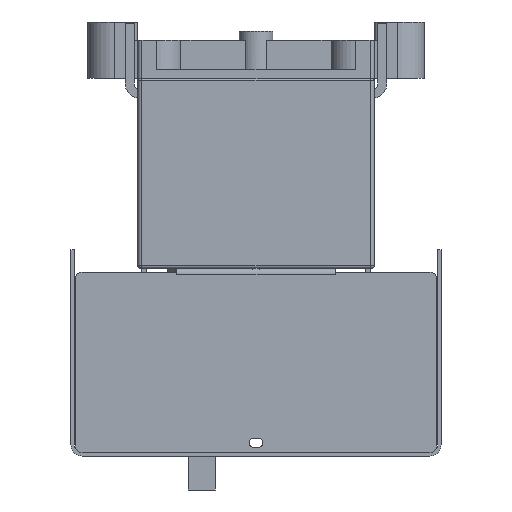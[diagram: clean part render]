
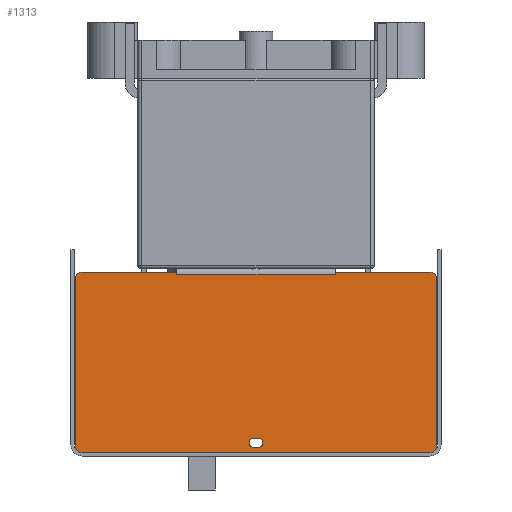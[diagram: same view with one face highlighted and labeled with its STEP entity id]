
A CAD part, left-side view. The second image highlights one B-rep face of the part: STEP entity #1313.
In plain terms, the highlighted planar face has unit normal (-1, 0, 0).
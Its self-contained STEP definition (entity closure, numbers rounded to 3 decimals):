
#170=FACE_BOUND('',#4101,.T.);
#171=FACE_BOUND('',#4102,.T.);
#1313=ADVANCED_FACE('',(#170,#171),#2145,.T.);
#2145=PLANE('',#21036);
#4101=EDGE_LOOP('',(#8823,#8824,#8825,#8826,#8827,#8828,#8829,#8830,#8831,
#8832,#8833,#8834,#8835,#8836));
#4102=EDGE_LOOP('',(#8837,#8838,#8839,#8840));
#5039=CIRCLE('',#21014,2.1);
#5041=CIRCLE('',#21018,2.1);
#5043=CIRCLE('',#21022,3.);
#5045=CIRCLE('',#21025,3.);
#5047=CIRCLE('',#21029,3.);
#5049=CIRCLE('',#21033,3.);
#8823=ORIENTED_EDGE('',*,*,#14723,.F.);
#8824=ORIENTED_EDGE('',*,*,#14724,.T.);
#8825=ORIENTED_EDGE('',*,*,#14725,.T.);
#8826=ORIENTED_EDGE('',*,*,#14726,.T.);
#8827=ORIENTED_EDGE('',*,*,#14727,.F.);
#8828=ORIENTED_EDGE('',*,*,#14715,.T.);
#8829=ORIENTED_EDGE('',*,*,#14720,.T.);
#8830=ORIENTED_EDGE('',*,*,#14703,.T.);
#8831=ORIENTED_EDGE('',*,*,#14706,.T.);
#8832=ORIENTED_EDGE('',*,*,#14681,.T.);
#8833=ORIENTED_EDGE('',*,*,#14709,.T.);
#8834=ORIENTED_EDGE('',*,*,#14712,.T.);
#8835=ORIENTED_EDGE('',*,*,#14714,.T.);
#8836=ORIENTED_EDGE('',*,*,#14689,.T.);
#8837=ORIENTED_EDGE('',*,*,#14693,.T.);
#8838=ORIENTED_EDGE('',*,*,#14697,.T.);
#8839=ORIENTED_EDGE('',*,*,#14700,.T.);
#8840=ORIENTED_EDGE('',*,*,#14722,.T.);
#11890=VERTEX_POINT('',#29773);
#11935=VERTEX_POINT('',#29870);
#12219=VERTEX_POINT('',#30961);
#12220=VERTEX_POINT('',#30963);
#12223=VERTEX_POINT('',#30970);
#12224=VERTEX_POINT('',#30972);
#12226=VERTEX_POINT('',#30978);
#12228=VERTEX_POINT('',#30984);
#12231=VERTEX_POINT('',#30991);
#12232=VERTEX_POINT('',#30993);
#12234=VERTEX_POINT('',#31002);
#12236=VERTEX_POINT('',#31008);
#12237=VERTEX_POINT('',#31015);
#12238=VERTEX_POINT('',#31016);
#12241=VERTEX_POINT('',#31030);
#12242=VERTEX_POINT('',#31032);
#12243=VERTEX_POINT('',#31034);
#12244=VERTEX_POINT('',#31036);
#14681=EDGE_CURVE('',#11890,#11935,#17113,.T.);
#14689=EDGE_CURVE('',#12220,#12219,#17120,.T.);
#14693=EDGE_CURVE('',#12224,#12223,#5039,.T.);
#14697=EDGE_CURVE('',#12223,#12226,#17126,.T.);
#14700=EDGE_CURVE('',#12226,#12228,#5041,.T.);
#14703=EDGE_CURVE('',#12232,#12231,#17130,.T.);
#14706=EDGE_CURVE('',#12231,#11890,#5043,.T.);
#14709=EDGE_CURVE('',#11935,#12234,#5045,.T.);
#14712=EDGE_CURVE('',#12234,#12236,#17135,.T.);
#14714=EDGE_CURVE('',#12236,#12220,#5047,.T.);
#14715=EDGE_CURVE('',#12237,#12238,#17136,.T.);
#14720=EDGE_CURVE('',#12238,#12232,#5049,.T.);
#14722=EDGE_CURVE('',#12228,#12224,#17141,.T.);
#14723=EDGE_CURVE('',#12241,#12219,#17142,.T.);
#14724=EDGE_CURVE('',#12241,#12242,#17143,.T.);
#14725=EDGE_CURVE('',#12242,#12243,#17144,.T.);
#14726=EDGE_CURVE('',#12243,#12244,#17145,.T.);
#14727=EDGE_CURVE('',#12237,#12244,#17146,.T.);
#17113=LINE('',#30944,#19201);
#17120=LINE('',#30962,#19208);
#17126=LINE('',#30979,#19214);
#17130=LINE('',#30992,#19218);
#17135=LINE('',#31009,#19223);
#17136=LINE('',#31014,#19224);
#17141=LINE('',#31027,#19229);
#17142=LINE('',#31029,#19230);
#17143=LINE('',#31031,#19231);
#17144=LINE('',#31033,#19232);
#17145=LINE('',#31035,#19233);
#17146=LINE('',#31037,#19234);
#19201=VECTOR('',#25137,1.);
#19208=VECTOR('',#25150,1.);
#19214=VECTOR('',#25164,1.);
#19218=VECTOR('',#25176,1.);
#19223=VECTOR('',#25195,1.);
#19224=VECTOR('',#25204,1.);
#19229=VECTOR('',#25217,1.);
#19230=VECTOR('',#25220,1.);
#19231=VECTOR('',#25221,1.);
#19232=VECTOR('',#25222,1.);
#19233=VECTOR('',#25223,1.);
#19234=VECTOR('',#25224,1.);
#21014=AXIS2_PLACEMENT_3D('',#30971,#25157,#25158);
#21018=AXIS2_PLACEMENT_3D('',#30985,#25170,#25171);
#21022=AXIS2_PLACEMENT_3D('',#30997,#25182,#25183);
#21025=AXIS2_PLACEMENT_3D('',#31003,#25189,#25190);
#21029=AXIS2_PLACEMENT_3D('',#31012,#25200,#25201);
#21033=AXIS2_PLACEMENT_3D('',#31024,#25212,#25213);
#21036=AXIS2_PLACEMENT_3D('',#31038,#25225,#25226);
#25137=DIRECTION('',(0.,-1.,0.));
#25150=DIRECTION('',(0.,1.,0.));
#25157=DIRECTION('',(1.,0.,0.));
#25158=DIRECTION('',(0.,1.,0.));
#25164=DIRECTION('',(0.,-1.,0.));
#25170=DIRECTION('',(1.,0.,0.));
#25171=DIRECTION('',(0.,1.,0.));
#25176=DIRECTION('',(0.,0.,-1.));
#25182=DIRECTION('',(-1.,0.,0.));
#25183=DIRECTION('',(0.,1.,0.));
#25189=DIRECTION('',(-1.,0.,0.));
#25190=DIRECTION('',(0.,1.,0.));
#25195=DIRECTION('',(0.,0.,1.));
#25200=DIRECTION('',(-1.,0.,0.));
#25201=DIRECTION('',(0.,1.,0.));
#25204=DIRECTION('',(0.,1.,0.));
#25212=DIRECTION('',(-1.,0.,0.));
#25213=DIRECTION('',(0.,1.,0.));
#25217=DIRECTION('',(0.,1.,0.));
#25220=DIRECTION('',(0.,0.,1.));
#25221=DIRECTION('',(0.,1.,0.));
#25222=DIRECTION('',(0.,1.,0.));
#25223=DIRECTION('',(0.,1.,0.));
#25224=DIRECTION('',(0.,0.,-1.));
#25225=DIRECTION('',(-1.,0.,0.));
#25226=DIRECTION('',(0.,-1.,0.));
#29773=CARTESIAN_POINT('',(-189.3,77.,-165.8));
#29870=CARTESIAN_POINT('',(-189.3,-77.,-165.8));
#30944=CARTESIAN_POINT('',(-189.3,77.,-165.8));
#30961=CARTESIAN_POINT('',(-189.3,-35.002,-85.8));
#30962=CARTESIAN_POINT('',(-189.3,-77.,-85.8));
#30963=CARTESIAN_POINT('',(-189.3,-77.,-85.8));
#30970=CARTESIAN_POINT('',(-189.3,1.,-159.3));
#30971=CARTESIAN_POINT('',(-189.3,1.,-161.4));
#30972=CARTESIAN_POINT('',(-189.3,1.,-163.5));
#30978=CARTESIAN_POINT('',(-189.3,-1.,-159.3));
#30979=CARTESIAN_POINT('',(-189.3,1.,-159.3));
#30984=CARTESIAN_POINT('',(-189.3,-1.,-163.5));
#30985=CARTESIAN_POINT('',(-189.3,-1.,-161.4));
#30991=CARTESIAN_POINT('',(-189.3,80.,-162.8));
#30992=CARTESIAN_POINT('',(-189.3,80.,-88.8));
#30993=CARTESIAN_POINT('',(-189.3,80.,-88.8));
#30997=CARTESIAN_POINT('',(-189.3,77.,-162.8));
#31002=CARTESIAN_POINT('',(-189.3,-80.,-162.8));
#31003=CARTESIAN_POINT('',(-189.3,-77.,-162.8));
#31008=CARTESIAN_POINT('',(-189.3,-80.,-88.8));
#31009=CARTESIAN_POINT('',(-189.3,-80.,-162.8));
#31012=CARTESIAN_POINT('',(-189.3,-77.,-88.8));
#31014=CARTESIAN_POINT('',(-189.3,-77.,-85.8));
#31015=CARTESIAN_POINT('',(-189.3,35.002,-85.8));
#31016=CARTESIAN_POINT('',(-189.3,77.,-85.8));
#31024=CARTESIAN_POINT('',(-189.3,77.,-88.8));
#31027=CARTESIAN_POINT('',(-189.3,-1.,-163.5));
#31029=CARTESIAN_POINT('',(-189.3,-35.002,-162.8));
#31030=CARTESIAN_POINT('',(-189.3,-35.002,-86.8));
#31031=CARTESIAN_POINT('',(-189.3,77.,-86.8));
#31032=CARTESIAN_POINT('',(-189.3,-35.,-86.8));
#31033=CARTESIAN_POINT('',(-189.3,50.5,-86.8));
#31034=CARTESIAN_POINT('',(-189.3,35.,-86.8));
#31035=CARTESIAN_POINT('',(-189.3,77.,-86.8));
#31036=CARTESIAN_POINT('',(-189.3,35.002,-86.8));
#31037=CARTESIAN_POINT('',(-189.3,35.002,-162.8));
#31038=CARTESIAN_POINT('',(-189.3,77.,-162.8));
